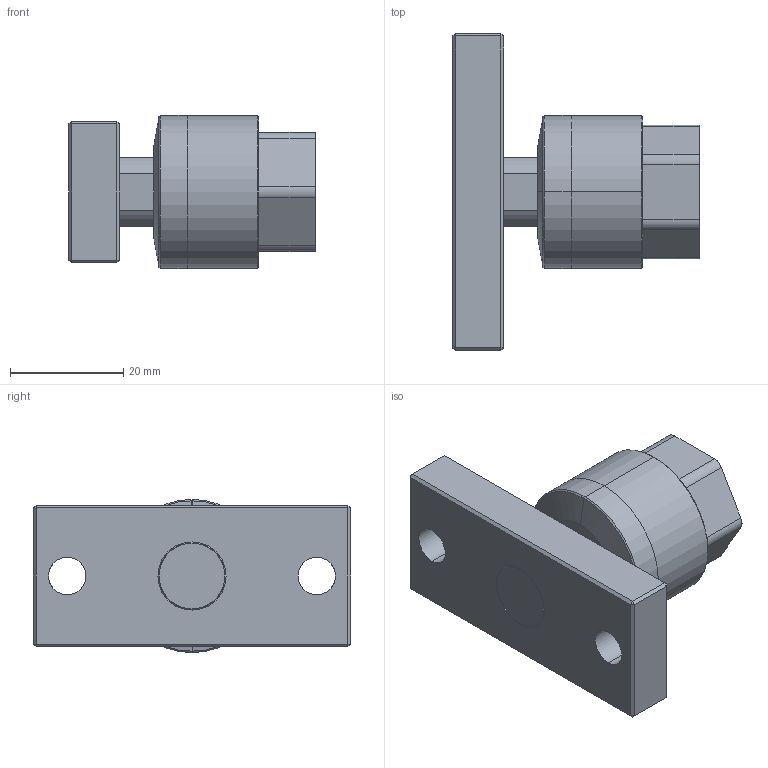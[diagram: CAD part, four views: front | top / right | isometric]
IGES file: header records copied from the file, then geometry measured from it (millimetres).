
Start section: SolidWorks IGES file using analytic representation for surfaces
Global section: file name: C:\Users\Toshiba\Desktop\FCM12A-1.25-F.IGS; native system: SolidWorks 2014; preprocessor: SolidWorks 2014; author: Toshiba; date: 160414.095650; units: millimetre
Bounding box: 43.5 x 56 x 27 mm (x, y, z)
Surface area: 8876 mm2 (no closed solid volume)
Topology: 0 solids, 0 shells, 78 faces, 734 edges, 732 vertices
Faces by surface type: bspline 44, revolution 34
